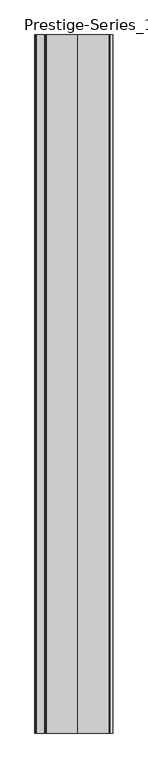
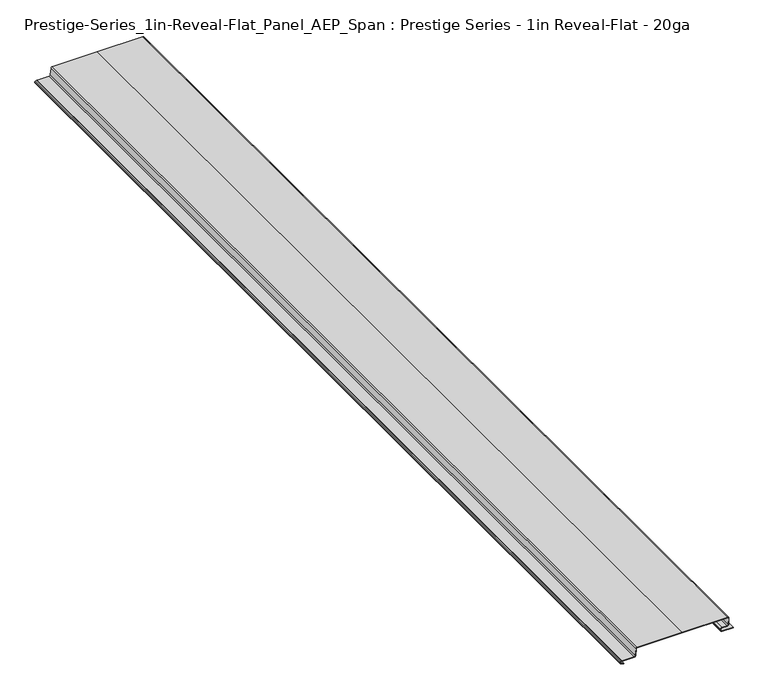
"""IFC4 building model written with IfcOpenShell, lengths in millimetres: proxy geometry, Prestige-Series_1in-Reveal-Flat_Panel_AEP_Span : Prestige Series - 1in Reveal-Flat - 20ga."""

from ifc_helpers import new_model, si_unit, point, frame, frame_2d, origin, place, context, project, spatial, polyline, circle_curve, trimmed, segment, composite_curve, outline, extrude, source, transform, mapped, element, save


def prestige_series_1in_reveal_flat_panel_aep_span_prestige_8d7ce070(model_context):
    return source(origin(), model_context, "Body", "SweptSolid", [
        extrude(outline(composite_curve([segment(polyline([(3.7242703, -186.0547211), (0.5644947, -176.7843346), (1.4155751, -176.494247), (4.5753508, -185.7646336)]), True, "CONTINUOUS"), segment(trimmed(circle_curve(frame_2d((6.6151497, -185.069376)), 2.155032), [point((4.5753508, -185.7646336))], [point((6.6828416, -187.2233445))], True, "CARTESIAN"), True, "CONTINUOUS"), segment(trimmed(circle_curve(frame_2d((6.7477884, -185.0692918)), 2.1550316), [point((6.6828416, -187.2233445))], [point((8.7773217, -185.7939681))], True, "CARTESIAN"), True, "CONTINUOUS"), segment(polyline([(8.7773217, -185.7939681), (9.8066494, -182.9112258)]), True, "CONTINUOUS"), segment(trimmed(circle_curve(frame_2d((4.6674035, -181.0761786)), 5.4570365), [point((9.8066494, -182.9112258))], [point((10.12444, -181.0761786))], True, "CARTESIAN"), True, "CONTINUOUS"), segment(polyline([(10.12444, -181.0761786), (10.12444, -144.9998441)]), True, "CONTINUOUS"), segment(trimmed(circle_curve(frame_2d((14.5718853, -144.9998441)), 4.4474453), [point((10.12444, -144.9998441))], [point((14.1809361, -140.5696152))], False, "CARTESIAN"), True, "CONTINUOUS"), segment(polyline([(14.1809361, -140.5696152), (34.4366714, -138.782131)]), True, "CONTINUOUS"), segment(trimmed(circle_curve(frame_2d((34.1702717, -135.7632943)), 3.0305683), [point((34.4366714, -138.782131))], [point((37.20084, -135.7632943))], True, "CARTESIAN"), True, "CONTINUOUS"), segment(polyline([(37.20084, -135.7632943), (37.20084, 0.0), (37.20084, 135.7540042)]), True, "CONTINUOUS"), segment(trimmed(circle_curve(frame_2d((34.1568093, 135.7540042)), 3.0440307), [point((37.20084, 135.7540042))], [point((33.9974885, 138.7938626))], True, "CARTESIAN"), True, "CONTINUOUS"), segment(polyline([(33.9974885, 138.7938626), (14.8582693, 137.7907645)]), True, "CONTINUOUS"), segment(trimmed(circle_curve(frame_2d((15.0175901, 134.7509066)), 3.0440301), [point((14.8582693, 137.7907645))], [point((11.97356, 134.7509066))], True, "CARTESIAN"), True, "CONTINUOUS"), segment(polyline([(11.97356, 134.7509066), (11.97356, 119.0216484)]), True, "CONTINUOUS"), segment(trimmed(circle_curve(frame_2d((7.9055915, 119.0216484)), 4.0679685), [point((11.97356, 119.0216484))], [point((7.9055915, 114.9536799))], False, "CARTESIAN"), True, "CONTINUOUS"), segment(polyline([(7.9055915, 114.9536799), (3.9308085, 114.9536799)]), True, "CONTINUOUS"), segment(trimmed(circle_curve(frame_2d((3.9308085, 119.0216484)), 4.0679685), [point((3.9308085, 114.9536799))], [point((-0.13716, 119.0216484))], False, "CARTESIAN"), True, "CONTINUOUS"), segment(polyline([(-0.13716, 119.0216484), (-0.13716, 152.3839022), (0.762, 152.3839022), (0.762, 119.0278397)]), True, "CONTINUOUS"), segment(trimmed(circle_curve(frame_2d((3.9369998, 119.0278397)), 3.1749998), [point((0.762, 119.0278397))], [point((3.9369998, 115.8528399))], True, "CARTESIAN"), True, "CONTINUOUS"), segment(polyline([(3.9369998, 115.8528399), (7.8994002, 115.8528399)]), True, "CONTINUOUS"), segment(trimmed(circle_curve(frame_2d((7.8994002, 119.0278397)), 3.1749998), [point((7.8994002, 115.8528399))], [point((11.0744, 119.0278397))], True, "CARTESIAN"), True, "CONTINUOUS"), segment(polyline([(11.0744, 119.0278397), (11.0744, 134.7567819)]), True, "CONTINUOUS"), segment(trimmed(circle_curve(frame_2d((15.0113988, 134.7567819)), 3.9369988), [point((11.0744, 134.7567819))], [point((14.8053411, 138.6883846))], False, "CARTESIAN"), True, "CONTINUOUS"), segment(polyline([(14.8053411, 138.6883846), (33.9569429, 139.6921317)]), True, "CONTINUOUS"), segment(trimmed(circle_curve(frame_2d((34.1630006, 135.7605284)), 3.9369994), [point((33.9569429, 139.6921317))], [point((38.1, 135.7605284))], False, "CARTESIAN"), True, "CONTINUOUS"), segment(polyline([(38.1, 135.7605284), (38.1, 0.0), (38.1, -135.7689632)]), True, "CONTINUOUS"), segment(trimmed(circle_curve(frame_2d((34.1764629, -135.7689632)), 3.9235371), [point((38.1, -135.7689632))], [point((34.5213584, -139.677312))], False, "CARTESIAN"), True, "CONTINUOUS"), segment(polyline([(34.5213584, -139.677312), (14.2656231, -141.4647961)]), True, "CONTINUOUS"), segment(trimmed(circle_curve(frame_2d((14.5780766, -145.0055131)), 3.5544766), [point((14.2656231, -141.4647961))], [point((11.0236, -145.0055131))], True, "CARTESIAN"), True, "CONTINUOUS"), segment(polyline([(11.0236, -145.0055131), (11.0236, -181.0772508)]), True, "CONTINUOUS"), segment(trimmed(circle_curve(frame_2d((4.6735948, -181.0772508)), 6.3500052), [point((11.0236, -181.0772508))], [point((10.6538074, -183.2125782))], False, "CARTESIAN"), True, "CONTINUOUS"), segment(polyline([(10.6538074, -183.2125782), (9.6241191, -186.0963302)]), True, "CONTINUOUS"), segment(trimmed(circle_curve(frame_2d((6.7536191, -185.0713738)), 3.0480004), [point((9.6241191, -186.0963302))], [point((6.6814543, -188.1185197))], False, "CARTESIAN"), True, "CONTINUOUS"), segment(trimmed(circle_curve(frame_2d((6.6092895, -185.0713734)), 3.0480007), [point((6.6814543, -188.1185197))], [point((3.7242703, -186.0547211))], False, "CARTESIAN"), True, "CONTINUOUS")], self_intersect=False)), frame((0.0, -3048.0, 0.0), z_axis=(0.0, 1.0, 0.0), x_axis=(0.0, 0.0, 1.0)), (0.0, 0.0, 1.0), 3048.0),
    ])


if __name__ == "__main__":
    model = new_model("IFC4")
    model_context = context("Model", 3, world=origin())
    ifc_project = project(units=[si_unit("LENGTHUNIT", "METRE", prefix="MILLI")], contexts=[model_context])
    site = spatial("IfcSite", under=ifc_project)
    building = spatial("IfcBuilding", under=site)
    placement = place(None, origin())
    prestige_series_1in_reveal_flat_panel_aep_span_prestige_shape = prestige_series_1in_reveal_flat_panel_aep_span_prestige_8d7ce070(model_context)
    element("IfcBuildingElementProxy", 1, Name="Prestige-Series_1in-Reveal-Flat_Panel_AEP_Span : Prestige Series - 1in Reveal-Flat - 20ga", ObjectType="Prestige-Series_1in-Reveal-Flat_Panel_AEP_Span : Prestige Series - 1in Reveal-Flat - 20ga", at=placement, inside=building, context=model_context, shape_type="MappedRepresentation", body=[
        mapped(prestige_series_1in_reveal_flat_panel_aep_span_prestige_shape, transform((0.0, 0.0, 0.0), x_axis=(1.0, 0.0, 0.0), y_axis=(0.0, 1.0, 0.0), z_axis=(0.0, 0.0, 1.0))),
    ])
    save(model, "model.ifc")
